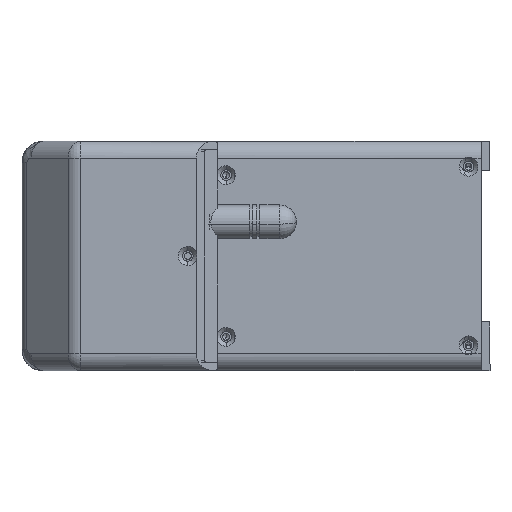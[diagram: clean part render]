
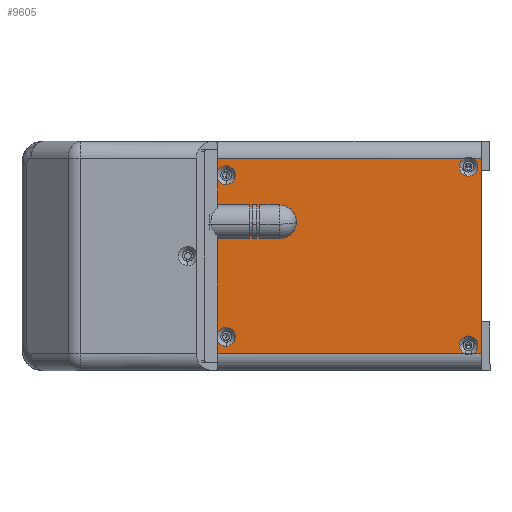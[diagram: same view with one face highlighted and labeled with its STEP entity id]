
A CAD part, left-side view. The second image highlights one B-rep face of the part: STEP entity #9605.
In plain terms, the highlighted planar face has unit normal (-1, 0, 0) as drawn and (0, 0, -1) by its records, which use the part's own axes.
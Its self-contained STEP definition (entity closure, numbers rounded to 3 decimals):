
#351 = DIRECTION ( 'NONE',  ( 0., 0., 1. ) ) ;
#474 = EDGE_CURVE ( 'NONE', #3684, #27760, #20149, .T. ) ;
#769 = AXIS2_PLACEMENT_3D ( 'NONE', #21177, #5181, #23855 ) ;
#816 = EDGE_CURVE ( 'NONE', #8599, #23994, #10881, .T. ) ;
#1005 = VERTEX_POINT ( 'NONE', #28516 ) ;
#1400 = AXIS2_PLACEMENT_3D ( 'NONE', #6155, #24823, #8842 ) ;
#1403 = CIRCLE ( 'NONE', #769, 2.2 ) ;
#1525 = ORIENTED_EDGE ( 'NONE', *, *, #17384, .T. ) ;
#2180 = CARTESIAN_POINT ( 'NONE',  ( 45.083, 62., -58. ) ) ;
#2613 = CARTESIAN_POINT ( 'NONE',  ( 50., 3.917, -58. ) ) ;
#2763 = VERTEX_POINT ( 'NONE', #22657 ) ;
#3684 = VERTEX_POINT ( 'NONE', #11717 ) ;
#3844 = AXIS2_PLACEMENT_3D ( 'NONE', #16275, #351, #18960 ) ;
#4004 = EDGE_CURVE ( 'NONE', #30471, #5639, #23250, .T. ) ;
#4537 = CARTESIAN_POINT ( 'NONE',  ( 4., 62., -58. ) ) ;
#4721 = CARTESIAN_POINT ( 'NONE',  ( 4., 0., -58. ) ) ;
#4952 = ORIENTED_EDGE ( 'NONE', *, *, #8638, .F. ) ;
#5078 = DIRECTION ( 'NONE',  ( 0., 0., 1. ) ) ;
#5181 = DIRECTION ( 'NONE',  ( 0., 0., 1. ) ) ;
#5207 = CARTESIAN_POINT ( 'NONE',  ( 48.2, 60., -58. ) ) ;
#5308 = DIRECTION ( 'NONE',  ( 1., 0., 0. ) ) ;
#5349 = VECTOR ( 'NONE', #29423, 1000. ) ;
#5584 = ORIENTED_EDGE ( 'NONE', *, *, #816, .T. ) ;
#5639 = VERTEX_POINT ( 'NONE', #8304 ) ;
#6155 = CARTESIAN_POINT ( 'NONE',  ( 46., 60., -58. ) ) ;
#6500 = VERTEX_POINT ( 'NONE', #22691 ) ;
#6791 = CIRCLE ( 'NONE', #3844, 2.2 ) ;
#6822 = CIRCLE ( 'NONE', #14116, 2.2 ) ;
#6944 = CIRCLE ( 'NONE', #15519, 2.2 ) ;
#7098 = DIRECTION ( 'NONE',  ( 0., 0., 1. ) ) ;
#7191 = DIRECTION ( 'NONE',  ( 0., 0., -1. ) ) ;
#7701 = LINE ( 'NONE', #32100, #28153 ) ;
#7892 = VERTEX_POINT ( 'NONE', #2613 ) ;
#8110 = CARTESIAN_POINT ( 'NONE',  ( 4., 62., -58. ) ) ;
#8304 = CARTESIAN_POINT ( 'NONE',  ( 7.083, 62., -58. ) ) ;
#8464 = ORIENTED_EDGE ( 'NONE', *, *, #474, .T. ) ;
#8484 = CARTESIAN_POINT ( 'NONE',  ( 50., 62., -58. ) ) ;
#8599 = VERTEX_POINT ( 'NONE', #5207 ) ;
#8638 = EDGE_CURVE ( 'NONE', #30471, #19282, #20419, .T. ) ;
#8842 = DIRECTION ( 'NONE',  ( -1., 0., 0. ) ) ;
#9211 = ORIENTED_EDGE ( 'NONE', *, *, #16403, .T. ) ;
#9605 = ADVANCED_FACE ( 'NONE', ( #27390 ), #20525, .T. ) ;
#9939 = ORIENTED_EDGE ( 'NONE', *, *, #28597, .T. ) ;
#10423 = ORIENTED_EDGE ( 'NONE', *, *, #33300, .F. ) ;
#10458 = VERTEX_POINT ( 'NONE', #27602 ) ;
#10499 = LINE ( 'NONE', #8484, #30962 ) ;
#10629 = CARTESIAN_POINT ( 'NONE',  ( 4., 3.917, -58. ) ) ;
#10833 = DIRECTION ( 'NONE',  ( 0., -1., 0. ) ) ;
#10881 = CIRCLE ( 'NONE', #1400, 2.2 ) ;
#11631 = CARTESIAN_POINT ( 'NONE',  ( 48., 3., -58. ) ) ;
#11717 = CARTESIAN_POINT ( 'NONE',  ( 10.2, 60., -58. ) ) ;
#11777 = CARTESIAN_POINT ( 'NONE',  ( 46., 60., -58. ) ) ;
#11823 = VERTEX_POINT ( 'NONE', #26379 ) ;
#12079 = DIRECTION ( 'NONE',  ( 0., 0., 1. ) ) ;
#12244 = EDGE_CURVE ( 'NONE', #13724, #28231, #30976, .T. ) ;
#12247 = DIRECTION ( 'NONE',  ( 1., 0., 0. ) ) ;
#12274 = ORIENTED_EDGE ( 'NONE', *, *, #27606, .T. ) ;
#12735 = ORIENTED_EDGE ( 'NONE', *, *, #12244, .F. ) ;
#13522 = VECTOR ( 'NONE', #33622, 1000. ) ;
#13669 = DIRECTION ( 'NONE',  ( 0., -1., 0. ) ) ;
#13724 = VERTEX_POINT ( 'NONE', #4721 ) ;
#14083 = DIRECTION ( 'NONE',  ( 0., 0., 1. ) ) ;
#14116 = AXIS2_PLACEMENT_3D ( 'NONE', #30024, #14083, #32720 ) ;
#14358 = DIRECTION ( 'NONE',  ( -1., 0., 0. ) ) ;
#14516 = DIRECTION ( 'NONE',  ( -1., 0., 0. ) ) ;
#15519 = AXIS2_PLACEMENT_3D ( 'NONE', #11631, #30293, #14358 ) ;
#16005 = AXIS2_PLACEMENT_3D ( 'NONE', #21057, #5078, #23744 ) ;
#16275 = CARTESIAN_POINT ( 'NONE',  ( 46., 60., -58. ) ) ;
#16403 = EDGE_CURVE ( 'NONE', #11823, #19282, #6822, .T. ) ;
#16835 = EDGE_CURVE ( 'NONE', #19750, #10458, #6791, .T. ) ;
#17384 = EDGE_CURVE ( 'NONE', #23700, #3684, #1403, .T. ) ;
#18703 = AXIS2_PLACEMENT_3D ( 'NONE', #4537, #7191, #25867 ) ;
#18950 = EDGE_CURVE ( 'NONE', #7892, #2763, #31676, .T. ) ;
#18960 = DIRECTION ( 'NONE',  ( -1., 0., 0. ) ) ;
#19282 = VERTEX_POINT ( 'NONE', #10629 ) ;
#19750 = VERTEX_POINT ( 'NONE', #2180 ) ;
#20149 = CIRCLE ( 'NONE', #33048, 2.2 ) ;
#20419 = LINE ( 'NONE', #8110, #5349 ) ;
#20446 = VECTOR ( 'NONE', #13669, 1000. ) ;
#20525 = PLANE ( 'NONE',  #18703 ) ;
#20710 = EDGE_CURVE ( 'NONE', #6500, #28231, #10499, .T. ) ;
#20900 = VECTOR ( 'NONE', #10833, 1000. ) ;
#21057 = CARTESIAN_POINT ( 'NONE',  ( 8., 60., -58. ) ) ;
#21177 = CARTESIAN_POINT ( 'NONE',  ( 8., 60., -58. ) ) ;
#21766 = ORIENTED_EDGE ( 'NONE', *, *, #31691, .T. ) ;
#22153 = EDGE_LOOP ( 'NONE', ( #21766, #33820, #12274, #22947, #12735, #10423, #9211, #4952, #25230, #28949, #1525, #8464, #9939, #22163, #34207, #5584, #30614 ) ) ;
#22163 = ORIENTED_EDGE ( 'NONE', *, *, #16835, .T. ) ;
#22657 = CARTESIAN_POINT ( 'NONE',  ( 45.8, 3., -58. ) ) ;
#22691 = CARTESIAN_POINT ( 'NONE',  ( 50., 2.083, -58. ) ) ;
#22906 = CARTESIAN_POINT ( 'NONE',  ( 4., 0., -58. ) ) ;
#22947 = ORIENTED_EDGE ( 'NONE', *, *, #20710, .T. ) ;
#23103 = CARTESIAN_POINT ( 'NONE',  ( 8., 60., -58. ) ) ;
#23250 = LINE ( 'NONE', #31874, #29451 ) ;
#23700 = VERTEX_POINT ( 'NONE', #26490 ) ;
#23744 = DIRECTION ( 'NONE',  ( -1., 0., 0. ) ) ;
#23855 = DIRECTION ( 'NONE',  ( -1., 0., 0. ) ) ;
#23903 = VECTOR ( 'NONE', #12247, 1000. ) ;
#23950 = CARTESIAN_POINT ( 'NONE',  ( 4., 62., -58. ) ) ;
#23994 = VERTEX_POINT ( 'NONE', #30676 ) ;
#24823 = DIRECTION ( 'NONE',  ( 0., 0., 1. ) ) ;
#25230 = ORIENTED_EDGE ( 'NONE', *, *, #4004, .T. ) ;
#25776 = DIRECTION ( 'NONE',  ( -1., 0., 0. ) ) ;
#25867 = DIRECTION ( 'NONE',  ( -1., 0., 0. ) ) ;
#26379 = CARTESIAN_POINT ( 'NONE',  ( 4., 2.083, -58. ) ) ;
#26490 = CARTESIAN_POINT ( 'NONE',  ( 5.8, 60., -58. ) ) ;
#27133 = AXIS2_PLACEMENT_3D ( 'NONE', #11777, #30442, #14516 ) ;
#27137 = DIRECTION ( 'NONE',  ( 0., -1., 0. ) ) ;
#27390 = FACE_OUTER_BOUND ( 'NONE', #22153, .T. ) ;
#27462 = CARTESIAN_POINT ( 'NONE',  ( 50., 0., -58. ) ) ;
#27485 = LINE ( 'NONE', #29601, #20446 ) ;
#27602 = CARTESIAN_POINT ( 'NONE',  ( 43.8, 60., -58. ) ) ;
#27606 = EDGE_CURVE ( 'NONE', #2763, #6500, #6944, .T. ) ;
#27760 = VERTEX_POINT ( 'NONE', #33468 ) ;
#27766 = AXIS2_PLACEMENT_3D ( 'NONE', #28057, #12079, #30722 ) ;
#27953 = LINE ( 'NONE', #32068, #20900 ) ;
#28057 = CARTESIAN_POINT ( 'NONE',  ( 48., 3., -58. ) ) ;
#28119 = CARTESIAN_POINT ( 'NONE',  ( 4., 62., -58. ) ) ;
#28153 = VECTOR ( 'NONE', #32217, 1000. ) ;
#28231 = VERTEX_POINT ( 'NONE', #27462 ) ;
#28516 = CARTESIAN_POINT ( 'NONE',  ( 50., 62., -58. ) ) ;
#28597 = EDGE_CURVE ( 'NONE', #27760, #19750, #7701, .T. ) ;
#28805 = EDGE_CURVE ( 'NONE', #10458, #8599, #29354, .T. ) ;
#28939 = EDGE_CURVE ( 'NONE', #23994, #1005, #33126, .T. ) ;
#28949 = ORIENTED_EDGE ( 'NONE', *, *, #30368, .T. ) ;
#29263 = CIRCLE ( 'NONE', #16005, 2.2 ) ;
#29354 = CIRCLE ( 'NONE', #27133, 2.2 ) ;
#29423 = DIRECTION ( 'NONE',  ( 0., -1., 0. ) ) ;
#29451 = VECTOR ( 'NONE', #5308, 1000. ) ;
#29601 = CARTESIAN_POINT ( 'NONE',  ( 4., 62., -58. ) ) ;
#30024 = CARTESIAN_POINT ( 'NONE',  ( 6., 3., -58. ) ) ;
#30293 = DIRECTION ( 'NONE',  ( 0., 0., 1. ) ) ;
#30368 = EDGE_CURVE ( 'NONE', #5639, #23700, #29263, .T. ) ;
#30442 = DIRECTION ( 'NONE',  ( 0., 0., 1. ) ) ;
#30471 = VERTEX_POINT ( 'NONE', #23950 ) ;
#30614 = ORIENTED_EDGE ( 'NONE', *, *, #28939, .T. ) ;
#30676 = CARTESIAN_POINT ( 'NONE',  ( 46.917, 62., -58. ) ) ;
#30722 = DIRECTION ( 'NONE',  ( -1., 0., 0. ) ) ;
#30962 = VECTOR ( 'NONE', #27137, 1000. ) ;
#30976 = LINE ( 'NONE', #22906, #23903 ) ;
#31676 = CIRCLE ( 'NONE', #27766, 2.2 ) ;
#31691 = EDGE_CURVE ( 'NONE', #1005, #7892, #27953, .T. ) ;
#31874 = CARTESIAN_POINT ( 'NONE',  ( 4., 62., -58. ) ) ;
#32068 = CARTESIAN_POINT ( 'NONE',  ( 50., 62., -58. ) ) ;
#32100 = CARTESIAN_POINT ( 'NONE',  ( 4., 62., -58. ) ) ;
#32217 = DIRECTION ( 'NONE',  ( 1., 0., 0. ) ) ;
#32720 = DIRECTION ( 'NONE',  ( -1., 0., 0. ) ) ;
#33048 = AXIS2_PLACEMENT_3D ( 'NONE', #23103, #7098, #25776 ) ;
#33126 = LINE ( 'NONE', #28119, #13522 ) ;
#33300 = EDGE_CURVE ( 'NONE', #11823, #13724, #27485, .T. ) ;
#33468 = CARTESIAN_POINT ( 'NONE',  ( 8.917, 62., -58. ) ) ;
#33622 = DIRECTION ( 'NONE',  ( 1., 0., 0. ) ) ;
#33820 = ORIENTED_EDGE ( 'NONE', *, *, #18950, .T. ) ;
#34207 = ORIENTED_EDGE ( 'NONE', *, *, #28805, .T. ) ;
